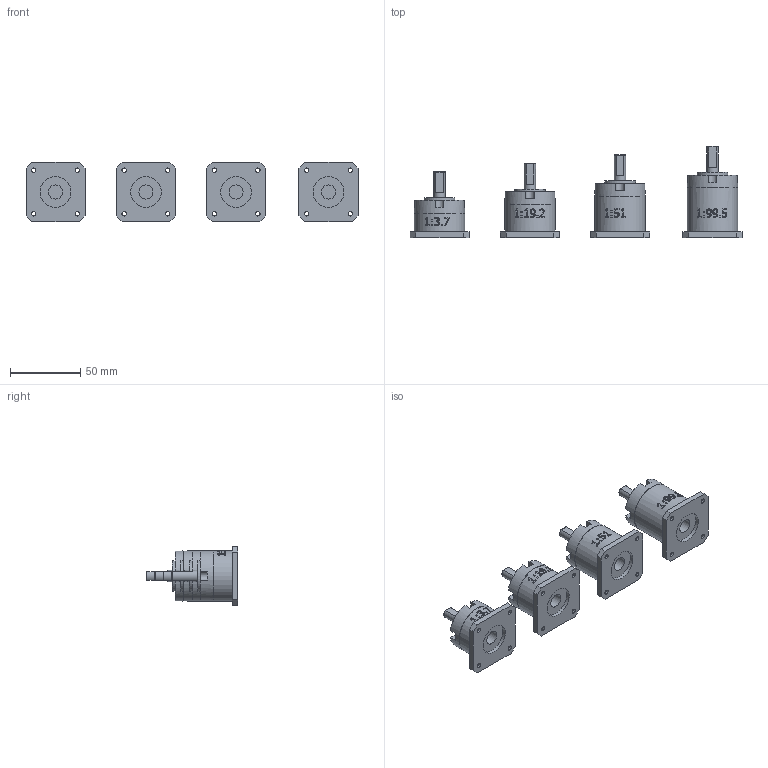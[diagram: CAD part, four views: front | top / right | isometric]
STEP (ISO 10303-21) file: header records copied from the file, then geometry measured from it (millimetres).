
FILE_DESCRIPTION(/* description */ (''),/* implementation_level */ '2;1');
FILE_NAME(/* name */ 'Assieme_riduttori_nema17.stp',/* time_stamp */ '2026-01-17T12:44:29+01:00',/* author */ ('R5800u'),/* organization */ (''),/* preprocessor_version */ 'ST-DEVELOPER v20',/* originating_system */ 'Autodesk Inventor 2025',/* authorisation */ '');
FILE_SCHEMA (('AUTOMOTIVE_DESIGN { 1 0 10303 214 3 1 1 }'));
Length unit declared in the file: millimetre
Products named in the file (5): Assieme_riduttori_nema17; riduttore_nema17_1; riduttore_nema17_2; riduttore_nema17_3; riduttore_nema17_4
Assembly tree (4 placements, depth 2):
  Assieme_riduttori_nema17
    riduttore_nema17_1
    riduttore_nema17_2
    riduttore_nema17_3
    riduttore_nema17_4
Bounding box: 236.33 x 65 x 42 mm (x, y, z)
Volume: 148035 mm3; surface area: 40462.1 mm2
Topology: 8 solids, 8 shells, 628 faces, 1552 edges, 1012 vertices
Faces by surface type: plane 315, cylinder 152, bspline 121, cone 32, torus 8
Full cylindrical faces by diameter (mm): 3.2 x48, 6.5 x16, 8 x8, 10 x4, 16 x4, 22 x8, 35.8 x4, 36 x8
Entity records: 22144 total; most frequent: CARTESIAN_POINT 7346, ORIENTED_EDGE 3040, DIRECTION 2752, EDGE_CURVE 1520, VERTEX_POINT 1012, AXIS2_PLACEMENT_3D 974, LINE 804, VECTOR 804
